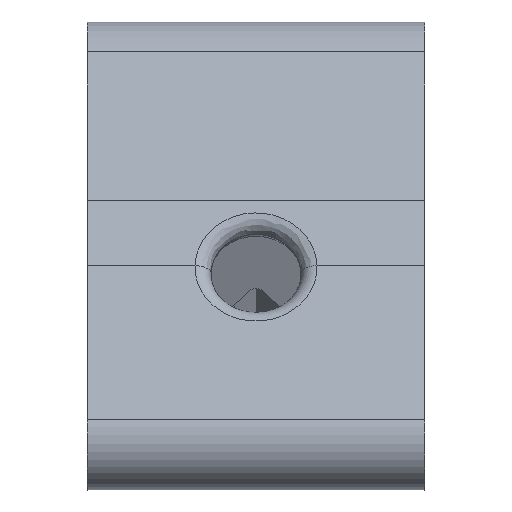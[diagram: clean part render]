
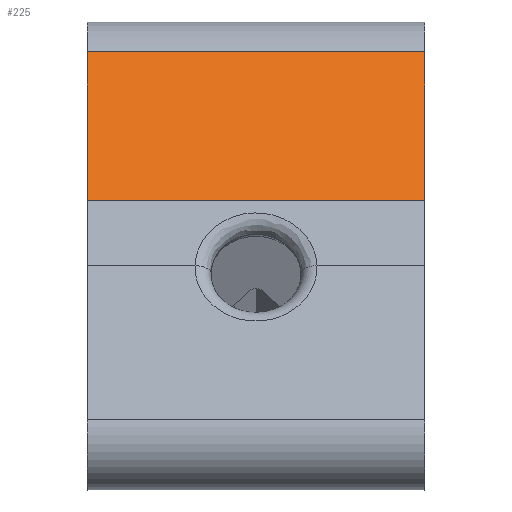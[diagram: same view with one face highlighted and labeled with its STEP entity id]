
A CAD part, left-side view. The second image highlights one B-rep face of the part: STEP entity #225.
In plain terms, the highlighted planar face has unit normal (-0.884, 0, 0.467).
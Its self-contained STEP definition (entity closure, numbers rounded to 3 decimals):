
#225=ADVANCED_FACE('',(#368),#315,.T.);
#315=PLANE('',#1940);
#368=FACE_OUTER_BOUND('',#466,.T.);
#466=EDGE_LOOP('',(#880,#881,#882,#883));
#614=B_SPLINE_CURVE_WITH_KNOTS('',1,(#3328,#3329,#3330,#3331,#3332,#3333,
#3334,#3335,#3336,#3337,#3338,#3339,#3340,#3341,#3342),.UNSPECIFIED.,.F.,
 .F.,(2,1,1,1,1,1,1,1,1,1,1,1,1,1,2),(0.,0.171,0.559,
0.583,0.596,0.612,0.629,
0.639,0.648,0.668,0.688,
0.708,0.727,0.744,1.),.UNSPECIFIED.);
#622=B_SPLINE_CURVE_WITH_KNOTS('',1,(#3441,#3442,#3443,#3444,#3445,#3446,
#3447,#3448,#3449,#3450,#3451,#3452,#3453,#3454,#3455),.UNSPECIFIED.,.F.,
 .F.,(2,1,1,1,1,1,1,1,1,1,1,1,1,1,2),(0.,0.171,0.559,
0.583,0.596,0.612,0.629,
0.639,0.648,0.668,0.688,
0.708,0.727,0.744,1.),.UNSPECIFIED.);
#880=ORIENTED_EDGE('',*,*,#1514,.F.);
#881=ORIENTED_EDGE('',*,*,#1449,.T.);
#882=ORIENTED_EDGE('',*,*,#1515,.T.);
#883=ORIENTED_EDGE('',*,*,#1473,.F.);
#1252=VERTEX_POINT('',#3327);
#1253=VERTEX_POINT('',#3343);
#1270=VERTEX_POINT('',#3440);
#1271=VERTEX_POINT('',#3456);
#1449=EDGE_CURVE('',#1253,#1252,#614,.T.);
#1473=EDGE_CURVE('',#1270,#1271,#622,.T.);
#1514=EDGE_CURVE('',#1253,#1270,#1683,.T.);
#1515=EDGE_CURVE('',#1252,#1271,#1684,.T.);
#1683=LINE('',#3692,#1802);
#1684=LINE('',#3693,#1803);
#1802=VECTOR('',#2241,1.);
#1803=VECTOR('',#2242,1.);
#1940=AXIS2_PLACEMENT_3D('',#3694,#2243,#2244);
#2241=DIRECTION('',(0.,1.,0.));
#2242=DIRECTION('',(0.,1.,0.));
#2243=DIRECTION('',(-0.884,0.,0.467));
#2244=DIRECTION('',(0.467,0.,0.884));
#3327=CARTESIAN_POINT('',(-12.092,-30.,30.711));
#3328=CARTESIAN_POINT('',(-40.817,-30.,-23.64));
#3329=CARTESIAN_POINT('',(-34.285,-30.,-11.281));
#3330=CARTESIAN_POINT('',(-19.5,-30.,16.694));
#3331=CARTESIAN_POINT('',(-18.598,-30.,18.402));
#3332=CARTESIAN_POINT('',(-18.098,-30.,19.347));
#3333=CARTESIAN_POINT('',(-17.501,-30.,20.476));
#3334=CARTESIAN_POINT('',(-16.828,-30.,21.75));
#3335=CARTESIAN_POINT('',(-16.466,-30.,22.435));
#3336=CARTESIAN_POINT('',(-16.102,-30.,23.124));
#3337=CARTESIAN_POINT('',(-15.347,-30.,24.553));
#3338=CARTESIAN_POINT('',(-14.585,-30.,25.995));
#3339=CARTESIAN_POINT('',(-13.836,-30.,27.412));
#3340=CARTESIAN_POINT('',(-13.116,-30.,28.775));
#3341=CARTESIAN_POINT('',(-12.437,-30.,30.06));
#3342=CARTESIAN_POINT('',(-2.691,-30.,48.499));
#3343=CARTESIAN_POINT('',(-26.043,-30.,4.314));
#3440=CARTESIAN_POINT('',(-26.043,30.,4.314));
#3441=CARTESIAN_POINT('',(-40.817,30.,-23.64));
#3442=CARTESIAN_POINT('',(-34.285,30.,-11.281));
#3443=CARTESIAN_POINT('',(-19.5,30.,16.694));
#3444=CARTESIAN_POINT('',(-18.598,30.,18.402));
#3445=CARTESIAN_POINT('',(-18.098,30.,19.347));
#3446=CARTESIAN_POINT('',(-17.501,30.,20.476));
#3447=CARTESIAN_POINT('',(-16.828,30.,21.75));
#3448=CARTESIAN_POINT('',(-16.466,30.,22.435));
#3449=CARTESIAN_POINT('',(-16.102,30.,23.124));
#3450=CARTESIAN_POINT('',(-15.347,30.,24.553));
#3451=CARTESIAN_POINT('',(-14.585,30.,25.995));
#3452=CARTESIAN_POINT('',(-13.836,30.,27.412));
#3453=CARTESIAN_POINT('',(-13.116,30.,28.775));
#3454=CARTESIAN_POINT('',(-12.437,30.,30.06));
#3455=CARTESIAN_POINT('',(-2.691,30.,48.499));
#3456=CARTESIAN_POINT('',(-12.092,30.,30.711));
#3692=CARTESIAN_POINT('',(-26.043,-30.,4.314));
#3693=CARTESIAN_POINT('',(-12.092,-30.,30.711));
#3694=CARTESIAN_POINT('',(-40.817,-30.,-23.64));
